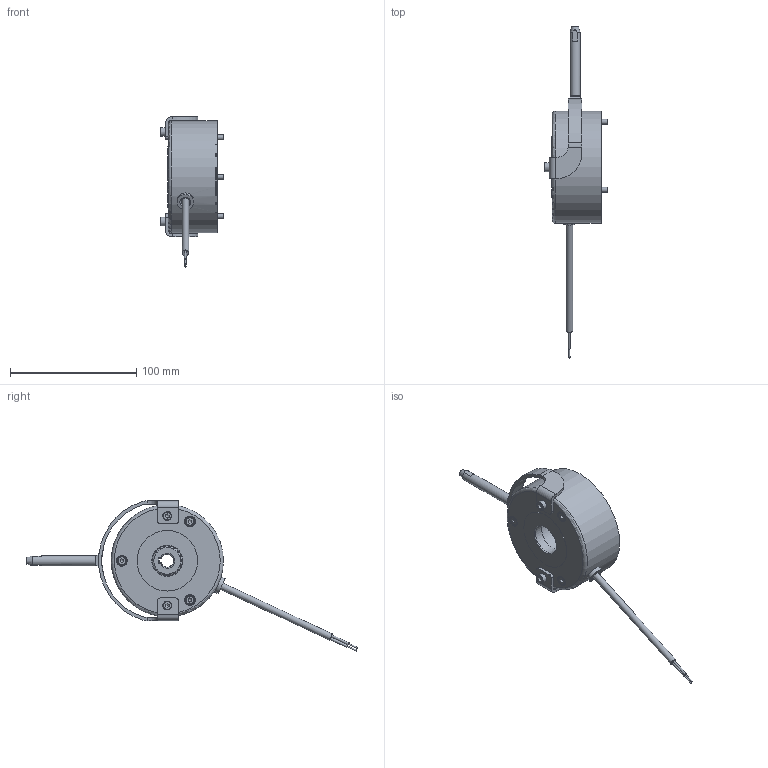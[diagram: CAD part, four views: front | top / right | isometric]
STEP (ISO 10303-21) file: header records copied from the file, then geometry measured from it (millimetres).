
FILE_DESCRIPTION(/* description */ (''),/* implementation_level */ '2;1');
FILE_NAME(/* name */ 'C:\SapWorkDir\Inventor\IP1\ConvertTempPath\5028604_IPT_000.ipt.stp',/* time_stamp */ '2020-09-10T10:52:30+02:00',/* author */ ('STRATE'),/* organization */ (''),/* preprocessor_version */ 'ST-DEVELOPER v17',/* originating_system */ 'Autodesk Inventor 2018',/* authorisation */ '');
FILE_SCHEMA (('AUTOMOTIVE_DESIGN { 1 0 10303 214 3 1 1 }'));
Length unit declared in the file: millimetre
Products named in the file (1): 5028604
Bounding box: 50.5 x 263.21 x 119.15 mm (x, y, z)
Volume: 218724.4 mm3; surface area: 62709.4 mm2
Topology: 3 solids, 3 shells, 432 faces, 1155 edges, 779 vertices
Faces by surface type: cylinder 219, plane 155, cone 40, torus 18
Full cylindrical faces by diameter (mm): 1 x2, 1.85 x2, 3 x1, 4 x5, 4.134 x1, 4.3 x2, 5 x2, 5.25 x2, 5.3 x1, 5.5 x2, 6.4 x3, 6.6 x1, 7 x7, 7.4 x2, 7.9 x3, 8 x1, 8.5 x2, 8.6 x3, 9 x2, 13.2 x1, 24 x1, 29 x1, 30.8 x1, 31 x1, 39.5 x2, 40 x2, 48 x1, 60 x1, 80 x1, 81 x1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
Entity records: 14909 total; most frequent: CARTESIAN_POINT 3441, ORIENTED_EDGE 2306, DIRECTION 2283, EDGE_CURVE 1153, AXIS2_PLACEMENT_3D 920, VERTEX_POINT 779, EDGE_LOOP 520, CIRCLE 487
